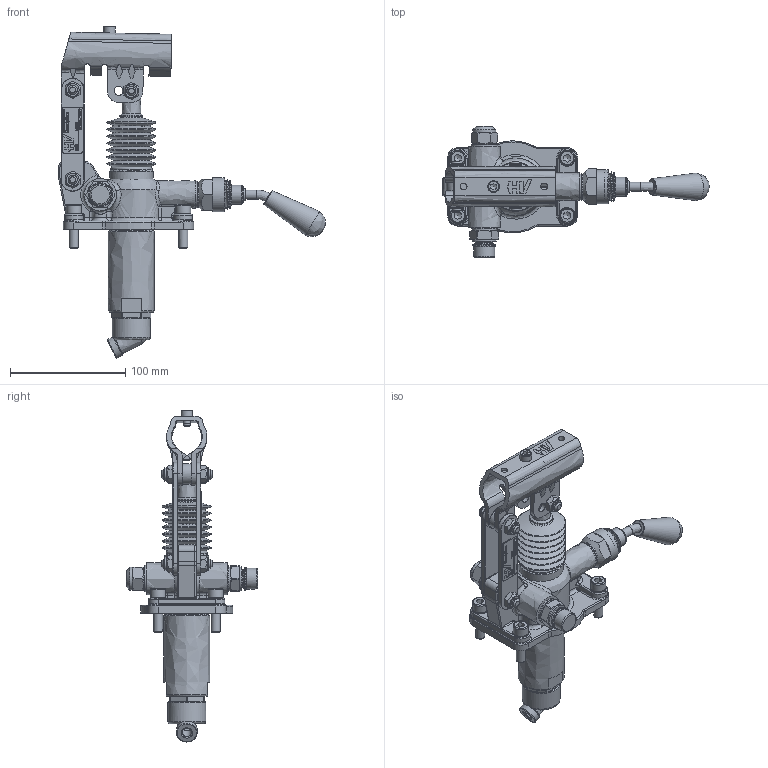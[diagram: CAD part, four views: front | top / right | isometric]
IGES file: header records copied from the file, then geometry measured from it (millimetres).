
Global section: file name: No Iges File Name specified; native system: Autodesk Inventor 2013; preprocessor: AutoDesk Inventor Iges Exporter R2013; author: christian.scardovi; date: 20240228.141557; units: millimetre
Bounding box: 231.27 x 114 x 288.31 mm (x, y, z)
Volume: 442564.8 mm3; surface area: 137970.7 mm2
Topology: 3 solids, 3 shells, 1504 faces, 3746 edges, 2356 vertices
Faces by surface type: bspline 1504
